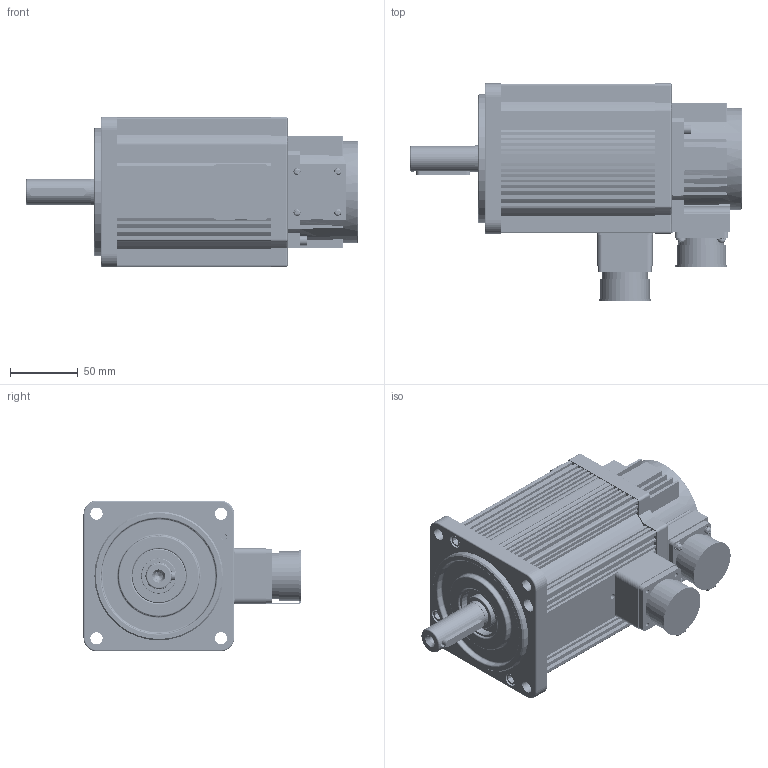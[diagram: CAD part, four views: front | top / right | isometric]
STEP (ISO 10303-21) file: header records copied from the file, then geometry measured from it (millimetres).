
FILE_DESCRIPTION (( 'STEP AP203' ), '1' );
FILE_NAME ('K1-110µç»ú 4Nm.STEP', '2020-01-11T02:25:06', ( 'gs' ), ( 'Microsoft' ), 'SwSTEP 2.0', 'SolidWorks 2019', '' );
FILE_SCHEMA (( 'CONFIG_CONTROL_DESIGN' ));
Length unit declared in the file: millimetre
Products named in the file (25): M3X8啋儂; K1-110晤鎢ん誘欶; K1-130諉盄釱; K1-130す瑩; K1-110儂褲樓馱綴 4Nm; K1-110密封圈; plain washers for clevis pins gb_GB_ROUND_WASHERS_TYPE7 4; K1-110 O型密封圈变形后; K1-110隅赽郪璃 4Nm; M5粟菜; curved single coil spring lock washers gb_GB_FASTENER_WASHER_CSLW 4; K1-130誘欶躇猾菜; K1-110ヶ傷裔 譙跡; M5X20; M4X12; K1-130瑤脣雄薯盄; K1-110綴傷裔 譙跡; K1-130瑤脣15郋; M3X12啋儂; K1-110萇儂 4Nm; K1-110粣 4Nm; K1-130瑤脣砎蝶菜; M3す菜; K1-110蛌赽郪璃 4Nm; K1-130盄簽砎蝶菜
Assembly tree (61 placements, depth 3):
  K1-110萇儂 4Nm
    K1-110隅赽郪璃 4Nm
      K1-110儂褲樓馱綴 4Nm
    K1-110ヶ傷裔 譙跡
    K1-110綴傷裔 譙跡
    K1-110蛌赽郪璃 4Nm
      K1-110粣 4Nm
    K1-110晤鎢ん誘欶
    K1-110密封圈
    M5粟菜  x8
    M5X20  x7
    K1-130瑤脣15郋
    K1-130瑤脣砎蝶菜
    K1-130盄簽砎蝶菜  x2
    K1-130諉盄釱
    plain washers for clevis pins gb_GB_ROUND_WASHERS_TYPE7 4
    curved single coil spring lock washers gb_GB_FASTENER_WASHER_CSLW 4  x9
    M4X12  x3
    M3X12啋儂  x4
    M3す菜  x7
    M3X8啋儂  x4
    K1-130す瑩
    K1-110 O型密封圈变形后  x2
    K1-130誘欶躇猾菜
    K1-130瑤脣雄薯盄
Bounding box: 245 x 160.2 x 111.2 mm (x, y, z)
Volume: 721466 mm3; surface area: 367062.4 mm2
Topology: 61 solids, 63 shells, 3063 faces, 8240 edges, 5417 vertices
Faces by surface type: cylinder 1843, plane 965, bspline 120, cone 73, torus 62
Entity records: 118220 total; most frequent: CARTESIAN_POINT 67399, ORIENTED_EDGE 10832, DIRECTION 8946, EDGE_CURVE 5416, VERTEX_POINT 3559, AXIS2_PLACEMENT_3D 3161, VECTOR 2624, LINE 2624
